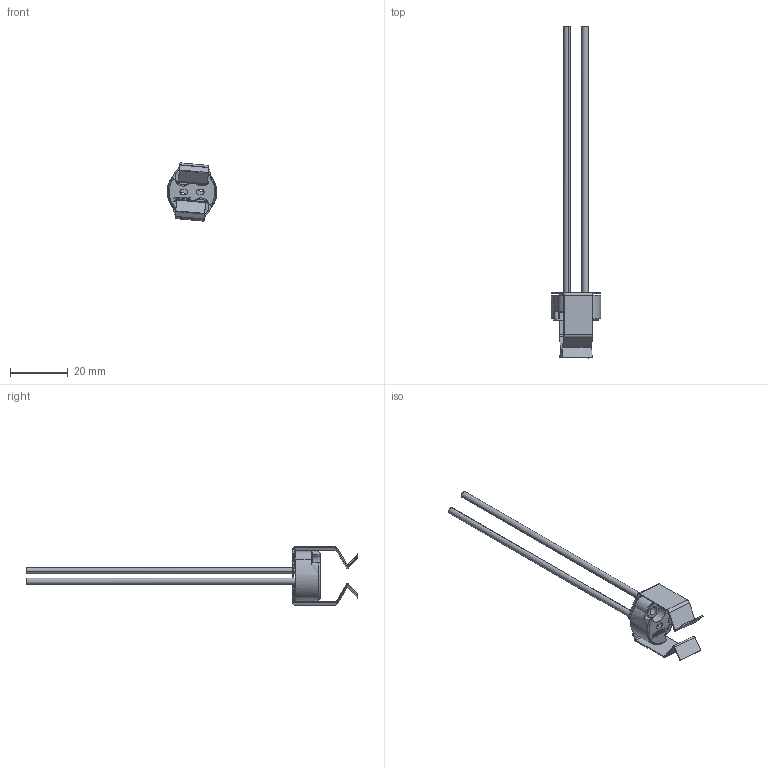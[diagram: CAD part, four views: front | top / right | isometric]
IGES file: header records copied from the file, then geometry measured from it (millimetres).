
Global section: file name: C:\coretechnologie2011\in/003Y001Y09.igs; native system: CT CoreTechnologie 3D Evolution; preprocessor: 2006; author: assmuth; date: 1120605.091048; units: millimetre
Bounding box: 17 x 114.57 x 20.1 mm (x, y, z)
Surface area: 4465.7 mm2 (no closed solid volume)
Topology: 0 solids, 0 shells, 272 faces, 1456 edges, 1456 vertices
Faces by surface type: bspline 272
